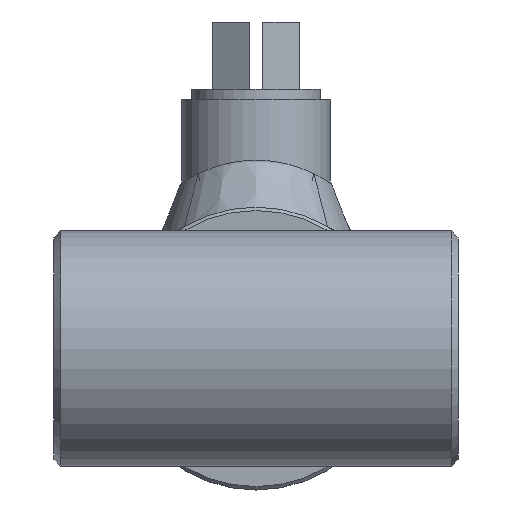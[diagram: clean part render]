
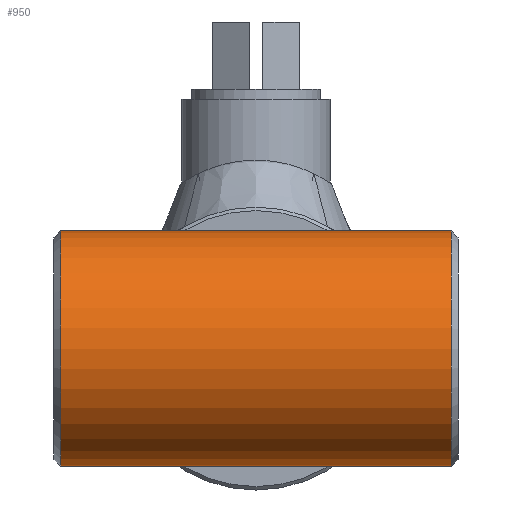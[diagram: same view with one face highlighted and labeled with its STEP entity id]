
A CAD part, left-side view. The second image highlights one B-rep face of the part: STEP entity #950.
In plain terms, the highlighted cylindrical face has radius 17.5 mm (diameter 35 mm), a full revolution.
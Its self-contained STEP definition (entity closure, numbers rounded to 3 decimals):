
#950 = ADVANCED_FACE( '', ( #1835, #1836 ), #1837, .T. );
#1835 = FACE_OUTER_BOUND( '', #4871, .T. );
#1836 = FACE_OUTER_BOUND( '', #4872, .T. );
#1837 = CYLINDRICAL_SURFACE( '', #4873, 17.5 );
#4871 = EDGE_LOOP( '', ( #9551 ) );
#4872 = EDGE_LOOP( '', ( #9552 ) );
#4873 = AXIS2_PLACEMENT_3D( '', #9553, #9554, #9555 );
#9551 = ORIENTED_EDGE( '', *, *, #11003, .T. );
#9552 = ORIENTED_EDGE( '', *, *, #11004, .T. );
#9553 = CARTESIAN_POINT( '', ( 0., -30., 0. ) );
#9554 = DIRECTION( '', ( 0., -1., 0. ) );
#9555 = DIRECTION( '', ( 0., 0., 1. ) );
#11003 = EDGE_CURVE( '', #11991, #11991, #11992, .F. );
#11004 = EDGE_CURVE( '', #11993, #11993, #11994, .T. );
#11991 = VERTEX_POINT( '', #14149 );
#11992 = CIRCLE( '', #14150, 17.5 );
#11993 = VERTEX_POINT( '', #14151 );
#11994 = CIRCLE( '', #14152, 17.5 );
#14149 = CARTESIAN_POINT( '', ( 0., 29., 17.5 ) );
#14150 = AXIS2_PLACEMENT_3D( '', #15928, #15929, #15930 );
#14151 = CARTESIAN_POINT( '', ( 0., -29., 17.5 ) );
#14152 = AXIS2_PLACEMENT_3D( '', #15931, #15932, #15933 );
#15928 = CARTESIAN_POINT( '', ( 0., 29., 0. ) );
#15929 = DIRECTION( '', ( 0., 1., 0. ) );
#15930 = DIRECTION( '', ( 0., 0., 1. ) );
#15931 = CARTESIAN_POINT( '', ( 0., -29., 0. ) );
#15932 = DIRECTION( '', ( 0., 1., 0. ) );
#15933 = DIRECTION( '', ( 0., 0., 1. ) );
